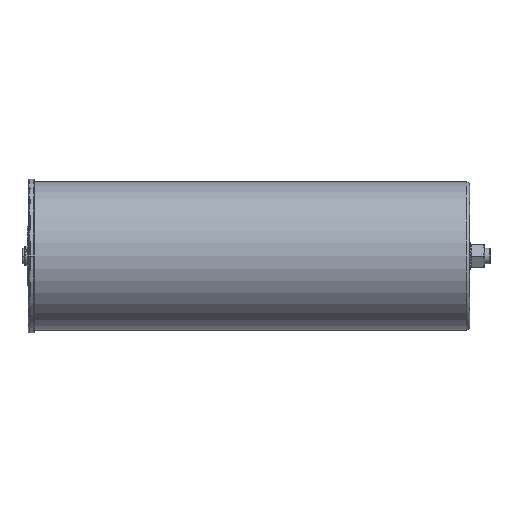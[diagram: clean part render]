
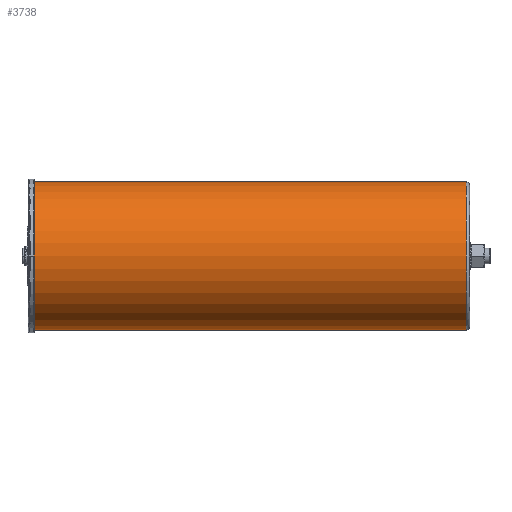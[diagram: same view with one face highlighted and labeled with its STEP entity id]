
A CAD part, left-side view. The second image highlights one B-rep face of the part: STEP entity #3738.
In plain terms, the highlighted cylindrical face has radius 58 mm (diameter 116 mm), a partial arc.
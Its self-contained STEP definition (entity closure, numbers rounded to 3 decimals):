
#641 = CARTESIAN_POINT ( 'NONE',  ( 0., -343.4, 58. ) ) ;
#1132 = CARTESIAN_POINT ( 'NONE',  ( 0., -0.6, 0. ) ) ;
#1743 = AXIS2_PLACEMENT_3D ( 'NONE', #7483, #2662, #9340 ) ;
#1869 = FACE_OUTER_BOUND ( 'NONE', #8106, .T. ) ;
#2189 = VERTEX_POINT ( 'NONE', #11711 ) ;
#2275 = CARTESIAN_POINT ( 'NONE',  ( 0., -343.4, -58. ) ) ;
#2662 = DIRECTION ( 'NONE',  ( 0., -1., 0. ) ) ;
#3070 = CIRCLE ( 'NONE', #11683, 58. ) ;
#3238 = DIRECTION ( 'NONE',  ( 0., -1., 0. ) ) ;
#3248 = CARTESIAN_POINT ( 'NONE',  ( 0., -340.9, -58. ) ) ;
#3445 = ORIENTED_EDGE ( 'NONE', *, *, #4101, .T. ) ;
#3738 = ADVANCED_FACE ( 'NONE', ( #1869 ), #5017, .T. ) ;
#4101 = EDGE_CURVE ( 'NONE', #7364, #10435, #3070, .T. ) ;
#4469 = VERTEX_POINT ( 'NONE', #9737 ) ;
#4598 = VECTOR ( 'NONE', #5330, 1000. ) ;
#5017 = CYLINDRICAL_SURFACE ( 'NONE', #1743, 58. ) ;
#5223 = EDGE_CURVE ( 'NONE', #4469, #7364, #10972, .T. ) ;
#5330 = DIRECTION ( 'NONE',  ( 0., -1., 0. ) ) ;
#5379 = ORIENTED_EDGE ( 'NONE', *, *, #9742, .F. ) ;
#5922 = ORIENTED_EDGE ( 'NONE', *, *, #7258, .T. ) ;
#7258 = EDGE_CURVE ( 'NONE', #2189, #4469, #11361, .T. ) ;
#7364 = VERTEX_POINT ( 'NONE', #3248 ) ;
#7373 = VECTOR ( 'NONE', #3238, 1000. ) ;
#7483 = CARTESIAN_POINT ( 'NONE',  ( 0., -343.4, 0. ) ) ;
#7694 = DIRECTION ( 'NONE',  ( 0., 1., 0. ) ) ;
#7745 = CARTESIAN_POINT ( 'NONE',  ( 0., -340.9, 58. ) ) ;
#7828 = DIRECTION ( 'NONE',  ( 0., 0., -1. ) ) ;
#8106 = EDGE_LOOP ( 'NONE', ( #5379, #5922, #8147, #3445 ) ) ;
#8147 = ORIENTED_EDGE ( 'NONE', *, *, #5223, .T. ) ;
#8591 = DIRECTION ( 'NONE',  ( 0., 0., -1. ) ) ;
#8893 = DIRECTION ( 'NONE',  ( 0., -1., 0. ) ) ;
#9340 = DIRECTION ( 'NONE',  ( 0., 0., -1. ) ) ;
#9737 = CARTESIAN_POINT ( 'NONE',  ( 0., -0.6, -58. ) ) ;
#9742 = EDGE_CURVE ( 'NONE', #2189, #10435, #10427, .T. ) ;
#10427 = LINE ( 'NONE', #641, #4598 ) ;
#10435 = VERTEX_POINT ( 'NONE', #7745 ) ;
#10440 = CARTESIAN_POINT ( 'NONE',  ( 0., -340.9, 0. ) ) ;
#10972 = LINE ( 'NONE', #2275, #7373 ) ;
#11105 = AXIS2_PLACEMENT_3D ( 'NONE', #1132, #8893, #7828 ) ;
#11361 = CIRCLE ( 'NONE', #11105, 58. ) ;
#11683 = AXIS2_PLACEMENT_3D ( 'NONE', #10440, #7694, #8591 ) ;
#11711 = CARTESIAN_POINT ( 'NONE',  ( 0., -0.6, 58. ) ) ;
